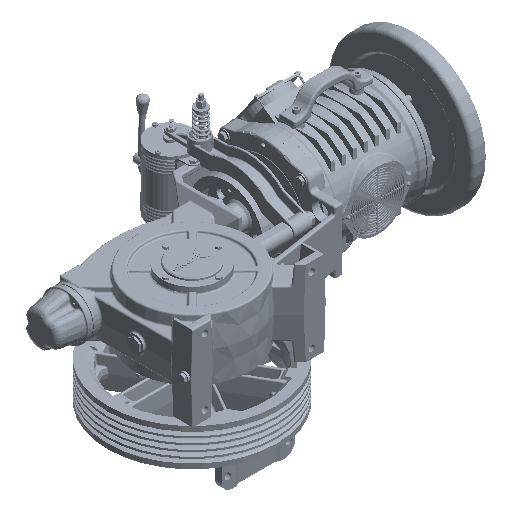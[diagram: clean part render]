
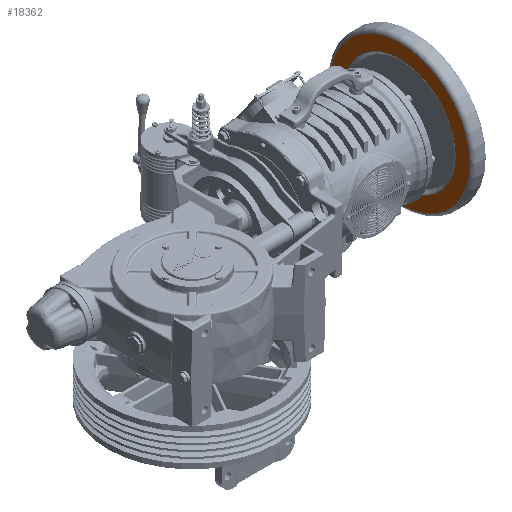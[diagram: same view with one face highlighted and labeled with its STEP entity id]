
A CAD part, isometric view. The second image highlights one B-rep face of the part: STEP entity #18362.
In plain terms, the highlighted planar face has unit normal (-1, 0, 0).
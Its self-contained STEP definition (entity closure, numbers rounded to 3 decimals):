
#6095 = ORIENTED_EDGE ( 'NONE', *, *, #230414, .F. ) ;
#11484 = DIRECTION ( 'NONE',  ( -1., 0., 0. ) ) ;
#18362 = ADVANCED_FACE ( 'NONE', ( #290433, #61814 ), #237132, .T. ) ;
#19636 = AXIS2_PLACEMENT_3D ( 'NONE', #184674, #496476, #549849 ) ;
#43423 = DIRECTION ( 'NONE',  ( 0., 0.336, -0.942 ) ) ;
#61814 = FACE_OUTER_BOUND ( 'NONE', #388603, .T. ) ;
#128965 = CARTESIAN_POINT ( 'NONE',  ( 273.275, 132.354, -144.024 ) ) ;
#139400 = DIRECTION ( 'NONE',  ( 0., 0.336, -0.942 ) ) ;
#164903 = CARTESIAN_POINT ( 'NONE',  ( 273.275, 81.057, 0. ) ) ;
#170781 = DIRECTION ( 'NONE',  ( 1., 0., 0. ) ) ;
#174635 = CARTESIAN_POINT ( 'NONE',  ( 273.275, 144.806, -178.986 ) ) ;
#184674 = CARTESIAN_POINT ( 'NONE',  ( 273.275, 81.057, 0. ) ) ;
#185094 = EDGE_CURVE ( 'NONE', #487545, #415481, #187105, .T. ) ;
#186871 = CARTESIAN_POINT ( 'NONE',  ( 273.275, 81.057, 0. ) ) ;
#187105 = CIRCLE ( 'NONE', #262946, 152.887 ) ;
#190901 = CARTESIAN_POINT ( 'NONE',  ( 273.275, 29.76, 144.024 ) ) ;
#204182 = EDGE_CURVE ( 'NONE', #415481, #487545, #514270, .T. ) ;
#230414 = EDGE_CURVE ( 'NONE', #475955, #567905, #372080, .T. ) ;
#237132 = PLANE ( 'NONE',  #423995 ) ;
#242978 = DIRECTION ( 'NONE',  ( 0., -0.336, 0.942 ) ) ;
#262946 = AXIS2_PLACEMENT_3D ( 'NONE', #269128, #497705, #43423 ) ;
#269128 = CARTESIAN_POINT ( 'NONE',  ( 273.275, 81.057, 0. ) ) ;
#274882 = ORIENTED_EDGE ( 'NONE', *, *, #185094, .T. ) ;
#285845 = ORIENTED_EDGE ( 'NONE', *, *, #488608, .F. ) ;
#290433 = FACE_BOUND ( 'NONE', #484360, .T. ) ;
#362563 = AXIS2_PLACEMENT_3D ( 'NONE', #164903, #170781, #574645 ) ;
#367979 = DIRECTION ( 'NONE',  ( 1., 0., 0. ) ) ;
#372080 = CIRCLE ( 'NONE', #504776, 190. ) ;
#388603 = EDGE_LOOP ( 'NONE', ( #6095, #285845 ) ) ;
#393784 = CARTESIAN_POINT ( 'NONE',  ( 273.275, 17.308, 178.986 ) ) ;
#415481 = VERTEX_POINT ( 'NONE', #190901 ) ;
#418245 = CARTESIAN_POINT ( 'NONE',  ( 273.275, 225.081, 51.297 ) ) ;
#423995 = AXIS2_PLACEMENT_3D ( 'NONE', #418245, #11484, #242978 ) ;
#475955 = VERTEX_POINT ( 'NONE', #174635 ) ;
#484360 = EDGE_LOOP ( 'NONE', ( #274882, #528698 ) ) ;
#487545 = VERTEX_POINT ( 'NONE', #128965 ) ;
#488608 = EDGE_CURVE ( 'NONE', #567905, #475955, #560055, .T. ) ;
#496476 = DIRECTION ( 'NONE',  ( 1., 0., 0. ) ) ;
#497705 = DIRECTION ( 'NONE',  ( 1., 0., 0. ) ) ;
#504776 = AXIS2_PLACEMENT_3D ( 'NONE', #186871, #367979, #139400 ) ;
#514270 = CIRCLE ( 'NONE', #362563, 152.887 ) ;
#528698 = ORIENTED_EDGE ( 'NONE', *, *, #204182, .T. ) ;
#549849 = DIRECTION ( 'NONE',  ( 0., 0.336, -0.942 ) ) ;
#560055 = CIRCLE ( 'NONE', #19636, 190. ) ;
#567905 = VERTEX_POINT ( 'NONE', #393784 ) ;
#574645 = DIRECTION ( 'NONE',  ( 0., 0.336, -0.942 ) ) ;
